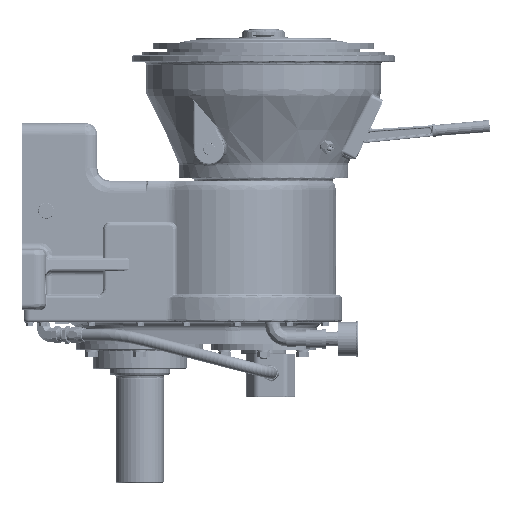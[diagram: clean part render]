
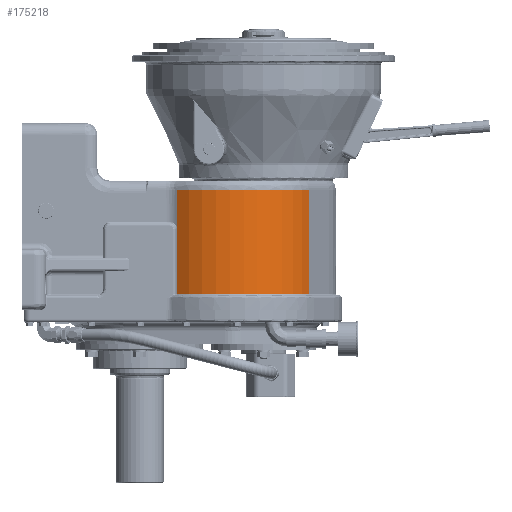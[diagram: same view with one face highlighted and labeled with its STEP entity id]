
A CAD part, left-side view. The second image highlights one B-rep face of the part: STEP entity #175218.
In plain terms, the highlighted cylindrical face has radius 184.15 mm (diameter 368.3 mm), a partial arc.
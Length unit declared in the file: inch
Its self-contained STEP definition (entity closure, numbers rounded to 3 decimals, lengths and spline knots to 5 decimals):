
#345 = VERTEX_POINT ( 'NONE', #108070 ) ;
#1123 = CARTESIAN_POINT ( 'NONE',  ( -3., 7.44, 0.75 ) ) ;
#2776 = EDGE_CURVE ( 'NONE', #122107, #141457, #74560, .T. ) ;
#3768 = ORIENTED_EDGE ( 'NONE', *, *, #78437, .T. ) ;
#7384 = EDGE_CURVE ( 'NONE', #208665, #345, #207423, .T. ) ;
#14081 = EDGE_LOOP ( 'NONE', ( #204104, #166223, #52606, #3768 ) ) ;
#18319 = DIRECTION ( 'NONE',  ( 1., 0., 0. ) ) ;
#34320 = CARTESIAN_POINT ( 'NONE',  ( -8.8, 3.09, 0.75 ) ) ;
#35774 = CARTESIAN_POINT ( 'NONE',  ( -3., 7.44, 9.38 ) ) ;
#46137 = DIRECTION ( 'NONE',  ( 0., 0., 1. ) ) ;
#47279 = AXIS2_PLACEMENT_3D ( 'NONE', #68121, #136965, #85332 ) ;
#52606 = ORIENTED_EDGE ( 'NONE', *, *, #2776, .T. ) ;
#52957 = DIRECTION ( 'NONE',  ( 1., 0., 0. ) ) ;
#54247 = CARTESIAN_POINT ( 'NONE',  ( -6.11391, 13.98722, 0.75 ) ) ;
#60875 = CARTESIAN_POINT ( 'NONE',  ( -8.8, 3.09, 9.38 ) ) ;
#61050 = VECTOR ( 'NONE', #46137, 39.37008 ) ;
#68121 = CARTESIAN_POINT ( 'NONE',  ( -3., 7.44, 0. ) ) ;
#73188 = CYLINDRICAL_SURFACE ( 'NONE', #47279, 7.25 ) ;
#74560 = CIRCLE ( 'NONE', #168307, 7.25 ) ;
#78437 = EDGE_CURVE ( 'NONE', #141457, #208665, #106639, .T. ) ;
#85332 = DIRECTION ( 'NONE',  ( 1., 0., 0. ) ) ;
#92337 = VECTOR ( 'NONE', #158074, 39.37008 ) ;
#106639 = LINE ( 'NONE', #165872, #61050 ) ;
#108070 = CARTESIAN_POINT ( 'NONE',  ( -6.11391, 13.98722, 9.38 ) ) ;
#120835 = DIRECTION ( 'NONE',  ( 0., 0., 1. ) ) ;
#122107 = VERTEX_POINT ( 'NONE', #54247 ) ;
#136965 = DIRECTION ( 'NONE',  ( 0., 0., 1. ) ) ;
#141457 = VERTEX_POINT ( 'NONE', #34320 ) ;
#155418 = DIRECTION ( 'NONE',  ( 0., 0., -1. ) ) ;
#158074 = DIRECTION ( 'NONE',  ( 0., 0., -1. ) ) ;
#165872 = CARTESIAN_POINT ( 'NONE',  ( -8.8, 3.09, 0. ) ) ;
#166223 = ORIENTED_EDGE ( 'NONE', *, *, #206340, .T. ) ;
#168307 = AXIS2_PLACEMENT_3D ( 'NONE', #1123, #120835, #18319 ) ;
#169645 = FACE_OUTER_BOUND ( 'NONE', #14081, .T. ) ;
#175218 = ADVANCED_FACE ( 'NONE', ( #169645 ), #73188, .T. ) ;
#183477 = LINE ( 'NONE', #195035, #92337 ) ;
#195035 = CARTESIAN_POINT ( 'NONE',  ( -6.11391, 13.98722, 0. ) ) ;
#204104 = ORIENTED_EDGE ( 'NONE', *, *, #7384, .T. ) ;
#206340 = EDGE_CURVE ( 'NONE', #345, #122107, #183477, .T. ) ;
#207423 = CIRCLE ( 'NONE', #216182, 7.25 ) ;
#208665 = VERTEX_POINT ( 'NONE', #60875 ) ;
#216182 = AXIS2_PLACEMENT_3D ( 'NONE', #35774, #155418, #52957 ) ;
